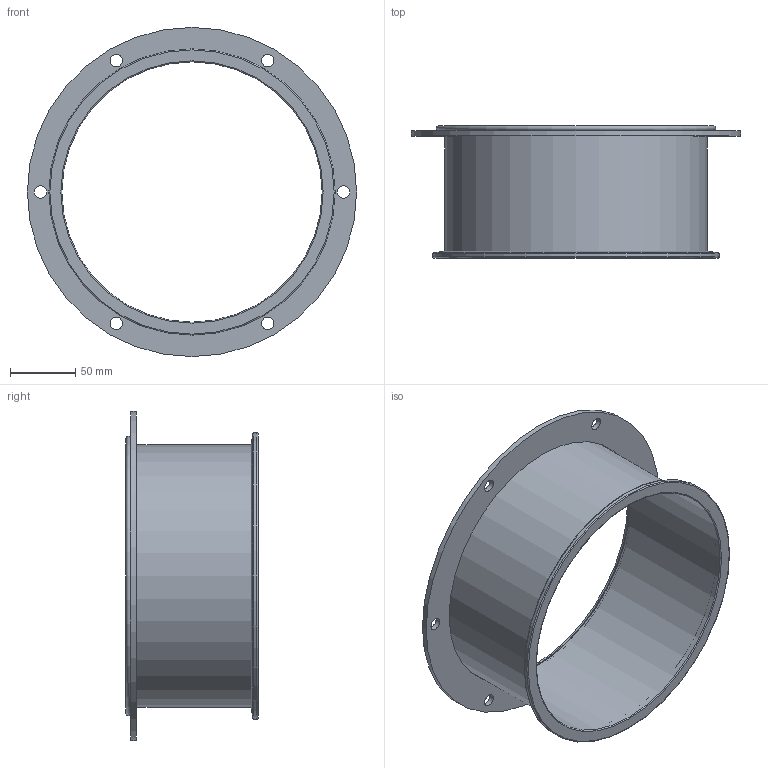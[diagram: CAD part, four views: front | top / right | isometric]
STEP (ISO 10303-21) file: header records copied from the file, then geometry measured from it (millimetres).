
FILE_DESCRIPTION(/* description */ (''),/* implementation_level */ '2;1');
FILE_NAME(/* name */ 'METU_EA101-41B_200_L100.stp',/* time_stamp */ '2018-10-10T11:38:28+02:00',/* author */ (''),/* organization */ (''),/* preprocessor_version */ 'ST-DEVELOPER v11',/* originating_system */ 'SIEMENS UGS NX 6.0',/* authorisation */ '');
FILE_SCHEMA (('CONFIG_CONTROL_DESIGN'));
Length unit declared in the file: millimetre
Products named in the file (1): garsCF17ddt1
Bounding box: 253 x 101.5 x 253 mm (x, y, z)
Volume: 163882 mm3; surface area: 205850.9 mm2
Topology: 3 solids, 3 shells, 30 faces, 68 edges, 47 vertices
Faces by surface type: cylinder 15, plane 9, torus 5, cone 1
Full cylindrical faces by diameter (mm): 9.5 x6, 200 x2, 201.6 x2, 203 x1, 211.6 x2, 220 x1, 253 x1
Entity records: 782 total; most frequent: DIRECTION 134, CARTESIAN_POINT 103, FACE_BOUND 72, EDGE_LOOP 72, ORIENTED_EDGE 72, AXIS2_PLACEMENT_3D 67, VERTEX_POINT 36, EDGE_CURVE 36
